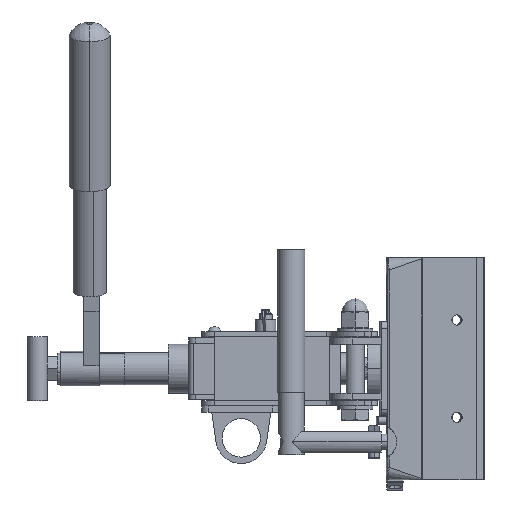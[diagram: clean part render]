
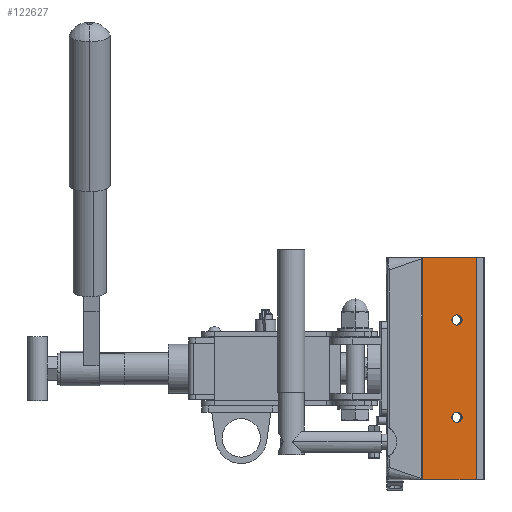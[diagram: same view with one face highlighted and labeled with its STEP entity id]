
A CAD part, left-side view. The second image highlights one B-rep face of the part: STEP entity #122627.
In plain terms, the highlighted planar face has unit normal (-1, -0.015, 0).
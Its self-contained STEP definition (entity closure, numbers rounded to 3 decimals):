
#330 = ORIENTED_EDGE ( 'NONE', *, *, #130743, .T. ) ;
#2836 = DIRECTION ( 'NONE',  ( 0., 0., 1. ) ) ;
#7283 = LINE ( 'NONE', #118211, #140882 ) ;
#7814 = EDGE_LOOP ( 'NONE', ( #8418, #59630 ) ) ;
#8418 = ORIENTED_EDGE ( 'NONE', *, *, #23998, .F. ) ;
#10608 = FACE_BOUND ( 'NONE', #112971, .T. ) ;
#11189 = CARTESIAN_POINT ( 'NONE',  ( -148.769, -182.331, -86.65 ) ) ;
#11467 = VERTEX_POINT ( 'NONE', #119594 ) ;
#12925 = CARTESIAN_POINT ( 'NONE',  ( -148.362, -209.228, 37.99 ) ) ;
#14344 = DIRECTION ( 'NONE',  ( -1., -0.015, 0. ) ) ;
#19656 = DIRECTION ( 'NONE',  ( 0., 0., -1. ) ) ;
#22523 = FACE_BOUND ( 'NONE', #7814, .T. ) ;
#23051 = VERTEX_POINT ( 'NONE', #129651 ) ;
#23998 = EDGE_CURVE ( 'NONE', #134207, #70583, #62591, .T. ) ;
#26023 = DIRECTION ( 'NONE',  ( 0., 0., 1. ) ) ;
#27040 = ORIENTED_EDGE ( 'NONE', *, *, #45115, .T. ) ;
#27117 = LINE ( 'NONE', #61004, #140273 ) ;
#34566 = CARTESIAN_POINT ( 'NONE',  ( -148.769, -182.331, -86.75 ) ) ;
#34929 = DIRECTION ( 'NONE',  ( 0., 0., 1. ) ) ;
#38540 = ORIENTED_EDGE ( 'NONE', *, *, #113118, .T. ) ;
#45115 = EDGE_CURVE ( 'NONE', #74985, #127483, #46582, .T. ) ;
#46582 = LINE ( 'NONE', #34566, #116840 ) ;
#47625 = EDGE_CURVE ( 'NONE', #127483, #52890, #27117, .T. ) ;
#49784 = AXIS2_PLACEMENT_3D ( 'NONE', #100663, #14344, #34929 ) ;
#51329 = DIRECTION ( 'NONE',  ( 1., 0.015, 0. ) ) ;
#52890 = VERTEX_POINT ( 'NONE', #80746 ) ;
#56291 = ORIENTED_EDGE ( 'NONE', *, *, #97743, .F. ) ;
#56646 = CARTESIAN_POINT ( 'NONE',  ( -148.362, -209.228, -37.99 ) ) ;
#59630 = ORIENTED_EDGE ( 'NONE', *, *, #99805, .F. ) ;
#61004 = CARTESIAN_POINT ( 'NONE',  ( -148.77, -182.231, -86.65 ) ) ;
#61870 = PLANE ( 'NONE',  #87617 ) ;
#62591 = CIRCLE ( 'NONE', #102568, 4.025 ) ;
#64180 = DIRECTION ( 'NONE',  ( 0., 0., 1. ) ) ;
#65535 = CIRCLE ( 'NONE', #111285, 4.025 ) ;
#67210 = AXIS2_PLACEMENT_3D ( 'NONE', #118348, #129345, #64180 ) ;
#67810 = CIRCLE ( 'NONE', #49784, 4.025 ) ;
#70583 = VERTEX_POINT ( 'NONE', #121255 ) ;
#72900 = CARTESIAN_POINT ( 'NONE',  ( -148.77, -182.231, -86.75 ) ) ;
#74985 = VERTEX_POINT ( 'NONE', #109932 ) ;
#75098 = DIRECTION ( 'NONE',  ( -0.015, 1., 0. ) ) ;
#80746 = CARTESIAN_POINT ( 'NONE',  ( -148.136, -224.227, -86.65 ) ) ;
#82044 = CIRCLE ( 'NONE', #67210, 4.025 ) ;
#87617 = AXIS2_PLACEMENT_3D ( 'NONE', #72900, #51329, #19656 ) ;
#89135 = VECTOR ( 'NONE', #26023, 1000. ) ;
#91705 = DIRECTION ( 'NONE',  ( 0.015, -1., 0. ) ) ;
#91712 = CARTESIAN_POINT ( 'NONE',  ( -148.136, -224.227, -86.75 ) ) ;
#97743 = EDGE_CURVE ( 'NONE', #132780, #11467, #82044, .T. ) ;
#99805 = EDGE_CURVE ( 'NONE', #70583, #134207, #67810, .T. ) ;
#100327 = DIRECTION ( 'NONE',  ( 0., 0., -1. ) ) ;
#100663 = CARTESIAN_POINT ( 'NONE',  ( -148.362, -209.228, 37.99 ) ) ;
#102568 = AXIS2_PLACEMENT_3D ( 'NONE', #12925, #133629, #2836 ) ;
#106049 = EDGE_LOOP ( 'NONE', ( #126133, #38540, #330, #27040 ) ) ;
#109932 = CARTESIAN_POINT ( 'NONE',  ( -148.769, -182.331, 86.65 ) ) ;
#111285 = AXIS2_PLACEMENT_3D ( 'NONE', #56646, #133276, #134212 ) ;
#112245 = CARTESIAN_POINT ( 'NONE',  ( -148.362, -209.228, 42.015 ) ) ;
#112971 = EDGE_LOOP ( 'NONE', ( #56291, #130182 ) ) ;
#113118 = EDGE_CURVE ( 'NONE', #52890, #23051, #121690, .T. ) ;
#116840 = VECTOR ( 'NONE', #100327, 1000. ) ;
#118211 = CARTESIAN_POINT ( 'NONE',  ( -148.77, -182.231, 86.65 ) ) ;
#118348 = CARTESIAN_POINT ( 'NONE',  ( -148.362, -209.228, -37.99 ) ) ;
#119594 = CARTESIAN_POINT ( 'NONE',  ( -148.362, -209.228, -42.015 ) ) ;
#121255 = CARTESIAN_POINT ( 'NONE',  ( -148.362, -209.228, 33.965 ) ) ;
#121690 = LINE ( 'NONE', #91712, #89135 ) ;
#122627 = ADVANCED_FACE ( 'NONE', ( #22523, #10608, #135670 ), #61870, .F. ) ;
#126133 = ORIENTED_EDGE ( 'NONE', *, *, #47625, .T. ) ;
#127483 = VERTEX_POINT ( 'NONE', #11189 ) ;
#129345 = DIRECTION ( 'NONE',  ( -1., -0.015, 0. ) ) ;
#129651 = CARTESIAN_POINT ( 'NONE',  ( -148.136, -224.227, 86.65 ) ) ;
#130182 = ORIENTED_EDGE ( 'NONE', *, *, #141403, .F. ) ;
#130743 = EDGE_CURVE ( 'NONE', #23051, #74985, #7283, .T. ) ;
#132780 = VERTEX_POINT ( 'NONE', #134178 ) ;
#133276 = DIRECTION ( 'NONE',  ( -1., -0.015, 0. ) ) ;
#133629 = DIRECTION ( 'NONE',  ( -1., -0.015, 0. ) ) ;
#134178 = CARTESIAN_POINT ( 'NONE',  ( -148.362, -209.228, -33.965 ) ) ;
#134207 = VERTEX_POINT ( 'NONE', #112245 ) ;
#134212 = DIRECTION ( 'NONE',  ( 0., 0., 1. ) ) ;
#135670 = FACE_OUTER_BOUND ( 'NONE', #106049, .T. ) ;
#140273 = VECTOR ( 'NONE', #91705, 1000. ) ;
#140882 = VECTOR ( 'NONE', #75098, 1000. ) ;
#141403 = EDGE_CURVE ( 'NONE', #11467, #132780, #65535, .T. ) ;
